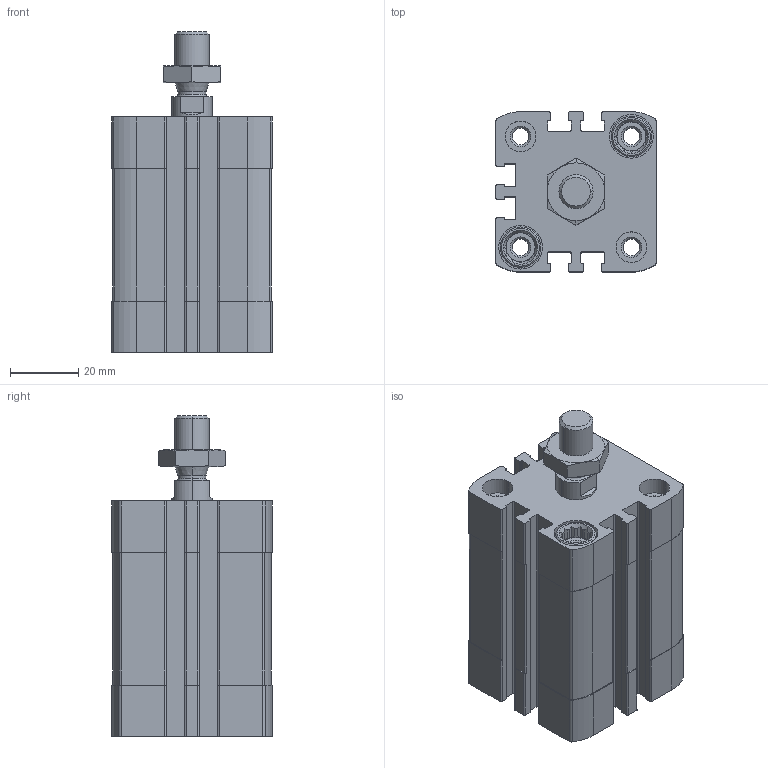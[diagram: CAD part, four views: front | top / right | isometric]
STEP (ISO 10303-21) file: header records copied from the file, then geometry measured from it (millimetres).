
FILE_DESCRIPTION (( 'STEP AP203' ), '1' );
FILE_NAME ('CCN32-25M.STEP', '2017-03-29T13:09:24', ( '' ), ( '' ), 'SwSTEP 2.0', 'SolidWorks 2016', '' );
FILE_SCHEMA (( 'CONFIG_CONTROL_DESIGN' ));
Length unit declared in the file: millimetre
Products named in the file (4): CCN-25---(Z); CCN-25_(KS); _DIN-439-B - M10x1.25(F); CCN32-25M
Assembly tree (3 placements, depth 2):
  CCN32-25M
    CCN-25---(Z)
    CCN-25_(KS)
    _DIN-439-B - M10x1.25(F)
Bounding box: 47 x 47 x 94 mm (x, y, z)
Volume: 109971.5 mm3; surface area: 40848.6 mm2
Topology: 3 solids, 3 shells, 499 faces, 1334 edges, 872 vertices
Faces by surface type: plane 275, cylinder 172, cone 48, bspline 4
Entity records: 16246 total; most frequent: CARTESIAN_POINT 3119, DIRECTION 2720, ORIENTED_EDGE 2668, EDGE_CURVE 1334, AXIS2_PLACEMENT_3D 997, VERTEX_POINT 872, VECTOR 726, LINE 726
